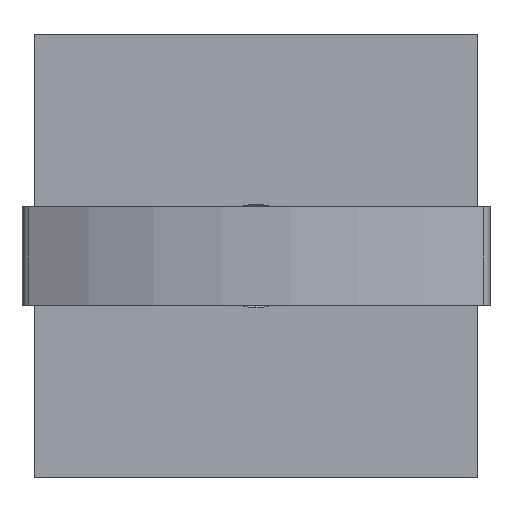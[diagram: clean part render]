
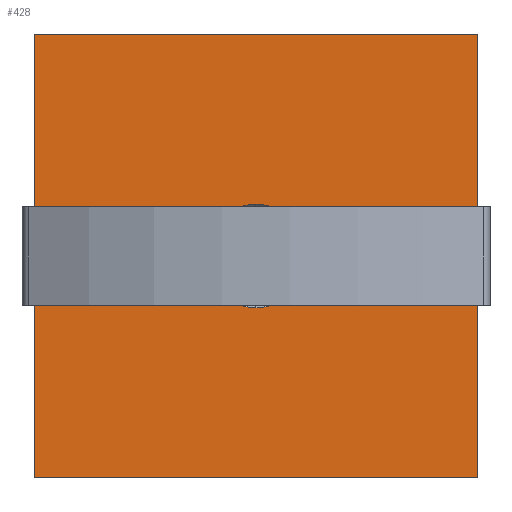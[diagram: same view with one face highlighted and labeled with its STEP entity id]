
A CAD part, front view. The second image highlights one B-rep face of the part: STEP entity #428.
In plain terms, the highlighted planar face has unit normal (0, -1, 0).
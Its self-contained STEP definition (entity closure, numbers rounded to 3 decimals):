
#5 = PLANE ( 'NONE',  #215 ) ;
#15 = LINE ( 'NONE', #645, #784 ) ;
#20 = EDGE_LOOP ( 'NONE', ( #790, #715 ) ) ;
#52 = CARTESIAN_POINT ( 'NONE',  ( 0., -2., 2.1 ) ) ;
#58 = LINE ( 'NONE', #204, #189 ) ;
#66 = CARTESIAN_POINT ( 'NONE',  ( 0., -2., 0. ) ) ;
#68 = EDGE_CURVE ( 'NONE', #856, #99, #58, .T. ) ;
#88 = VECTOR ( 'NONE', #667, 1000. ) ;
#91 = EDGE_CURVE ( 'NONE', #867, #130, #388, .T. ) ;
#99 = VERTEX_POINT ( 'NONE', #129 ) ;
#122 = CARTESIAN_POINT ( 'NONE',  ( 0., -2., -2.1 ) ) ;
#125 = FACE_BOUND ( 'NONE', #20, .T. ) ;
#129 = CARTESIAN_POINT ( 'NONE',  ( -9., -2., 9. ) ) ;
#130 = VERTEX_POINT ( 'NONE', #122 ) ;
#152 = CARTESIAN_POINT ( 'NONE',  ( 9., -2., -9. ) ) ;
#175 = EDGE_CURVE ( 'NONE', #130, #867, #906, .T. ) ;
#189 = VECTOR ( 'NONE', #286, 1000. ) ;
#204 = CARTESIAN_POINT ( 'NONE',  ( -9., -2., -9. ) ) ;
#209 = DIRECTION ( 'NONE',  ( 0., 1., 0. ) ) ;
#215 = AXIS2_PLACEMENT_3D ( 'NONE', #66, #209, #863 ) ;
#222 = FACE_OUTER_BOUND ( 'NONE', #473, .T. ) ;
#260 = DIRECTION ( 'NONE',  ( 0., 0., 1. ) ) ;
#269 = CARTESIAN_POINT ( 'NONE',  ( 0., -2., 0. ) ) ;
#273 = CARTESIAN_POINT ( 'NONE',  ( -9., -2., -9. ) ) ;
#286 = DIRECTION ( 'NONE',  ( 0., 0., 1. ) ) ;
#371 = CARTESIAN_POINT ( 'NONE',  ( 9., -2., -9. ) ) ;
#384 = LINE ( 'NONE', #152, #88 ) ;
#388 = CIRCLE ( 'NONE', #797, 2.1 ) ;
#407 = EDGE_CURVE ( 'NONE', #560, #805, #384, .T. ) ;
#425 = DIRECTION ( 'NONE',  ( -1., 0., 0. ) ) ;
#428 = ADVANCED_FACE ( 'NONE', ( #125, #222 ), #5, .F. ) ;
#464 = DIRECTION ( 'NONE',  ( 0., 1., 0. ) ) ;
#473 = EDGE_LOOP ( 'NONE', ( #894, #885, #758, #803 ) ) ;
#474 = CARTESIAN_POINT ( 'NONE',  ( -9., -2., -9. ) ) ;
#484 = DIRECTION ( 'NONE',  ( 0., 0., 1. ) ) ;
#514 = EDGE_CURVE ( 'NONE', #99, #560, #15, .T. ) ;
#539 = DIRECTION ( 'NONE',  ( 0., 1., 0. ) ) ;
#542 = CARTESIAN_POINT ( 'NONE',  ( 0., -2., 0. ) ) ;
#543 = EDGE_CURVE ( 'NONE', #805, #856, #763, .T. ) ;
#560 = VERTEX_POINT ( 'NONE', #765 ) ;
#645 = CARTESIAN_POINT ( 'NONE',  ( -9., -2., 9. ) ) ;
#652 = VECTOR ( 'NONE', #425, 1000. ) ;
#667 = DIRECTION ( 'NONE',  ( 0., 0., -1. ) ) ;
#715 = ORIENTED_EDGE ( 'NONE', *, *, #91, .T. ) ;
#737 = AXIS2_PLACEMENT_3D ( 'NONE', #542, #539, #484 ) ;
#758 = ORIENTED_EDGE ( 'NONE', *, *, #407, .F. ) ;
#763 = LINE ( 'NONE', #474, #652 ) ;
#765 = CARTESIAN_POINT ( 'NONE',  ( 9., -2., 9. ) ) ;
#784 = VECTOR ( 'NONE', #795, 1000. ) ;
#790 = ORIENTED_EDGE ( 'NONE', *, *, #175, .T. ) ;
#795 = DIRECTION ( 'NONE',  ( 1., 0., 0. ) ) ;
#797 = AXIS2_PLACEMENT_3D ( 'NONE', #269, #464, #260 ) ;
#803 = ORIENTED_EDGE ( 'NONE', *, *, #514, .F. ) ;
#805 = VERTEX_POINT ( 'NONE', #371 ) ;
#856 = VERTEX_POINT ( 'NONE', #273 ) ;
#863 = DIRECTION ( 'NONE',  ( 0., 0., 1. ) ) ;
#867 = VERTEX_POINT ( 'NONE', #52 ) ;
#885 = ORIENTED_EDGE ( 'NONE', *, *, #543, .F. ) ;
#894 = ORIENTED_EDGE ( 'NONE', *, *, #68, .F. ) ;
#906 = CIRCLE ( 'NONE', #737, 2.1 ) ;
